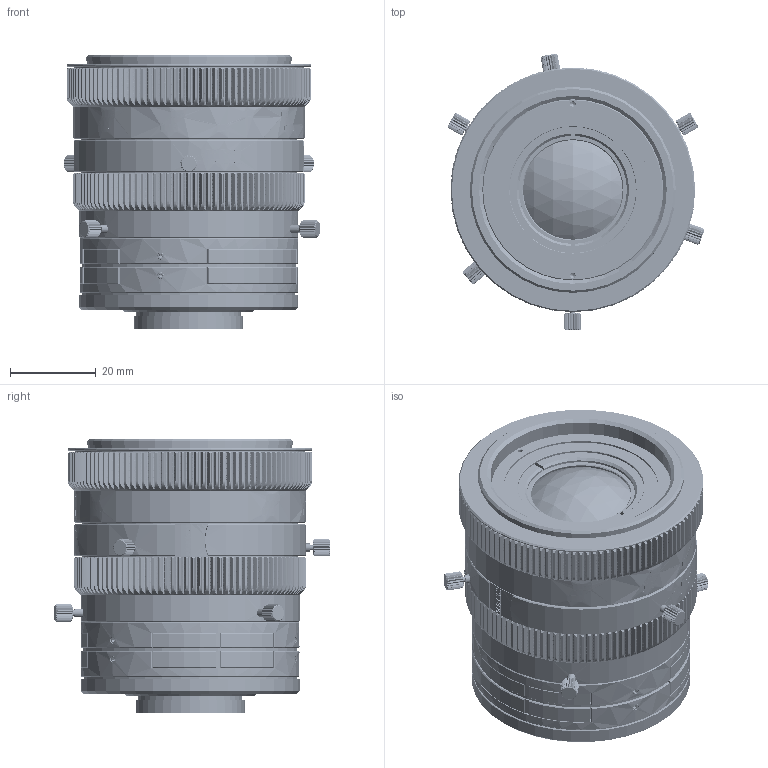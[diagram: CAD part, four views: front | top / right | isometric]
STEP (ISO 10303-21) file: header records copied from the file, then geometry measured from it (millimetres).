
FILE_DESCRIPTION((''),'2;1');
FILE_NAME('ASM0001_ASM','2017-12-15T',('zouwb'),('CARL ZEISS'),'PRO/ENGINEER BY PARAMETRIC TECHNOLOGY CORPORATION, 2015030','PRO/ENGINEER BY PARAMETRIC TECHNOLOGY CORPORATION, 2015030','');
FILE_SCHEMA(('AUTOMOTIVE_DESIGN { 1 0 10303 214 1 1 1 1 }'));
Products named in the file (31): KPM-1011_114BX_G13_CLAMP_ASSEMB; EEP_I___R_J_EEP3_5A; KPM-1011_185AX_APERTURE_LEVER; KPM-1011_181A_FOCUS_GEAR; KPM-1011_184BX_FOCUS_LEVER; ____-______O__4_1_; ____-______O__4_3_; ____1-161288; ____-______O__4_5_; ____-______O__4_2_; ____-______O__4_4_; KPM-1011_190A_CZ_LOGO_ASM; KPM-1011_183A_APERTURE_GEAR; KPM-1011_201A_C_MOUNT; G13; KPM-1011_182A_INDEX_RING_CX; G1; KPM-1011_103_G1_CLAMP__YBX_Z171; AEF_AEF3; KPM-1011_171_BF_BASE__X_G_B_P__; KPM-1011_174_THREAD_RING_A; KPM-1011_178_FOAM_PAD_B; KPM-1011_175_THREAD_RING_B; KPM-1011_172_BF_EXTENSION; KPM-1011_177_FOAM_PAD_A; KPM-1011_176_FOAM_RING; KPM-1011_BFA_ASSY_ASM; KPM-1011_187A_SHADING_RING; KPM-1011_115A_REAR_CENTERING_BA; KPM-1011_186A_FRONT_FRAME; ASM0001_ASM
Assembly tree (43 placements, depth 3):
  ASM0001_ASM
    KPM-1011_114BX_G13_CLAMP_ASSEMB
    EEP_I___R_J_EEP3_5A  x4
    KPM-1011_185AX_APERTURE_LEVER  x3
    KPM-1011_181A_FOCUS_GEAR
    KPM-1011_184BX_FOCUS_LEVER  x3
    KPM-1011_190A_CZ_LOGO_ASM  x2
      ____-______O__4_1_
      ____-______O__4_3_
      ____1-161288
      ____-______O__4_5_
      ____-______O__4_2_
      ____-______O__4_4_
    KPM-1011_183A_APERTURE_GEAR
    KPM-1011_201A_C_MOUNT
    G13
    KPM-1011_182A_INDEX_RING_CX
    G1
    KPM-1011_103_G1_CLAMP__YBX_Z171
    KPM-1011_BFA_ASSY_ASM
      AEF_AEF3  x6
      KPM-1011_171_BF_BASE__X_G_B_P__
      KPM-1011_174_THREAD_RING_A
      KPM-1011_178_FOAM_PAD_B
      KPM-1011_175_THREAD_RING_B
      KPM-1011_172_BF_EXTENSION
      KPM-1011_177_FOAM_PAD_A
      KPM-1011_176_FOAM_RING
    KPM-1011_187A_SHADING_RING
    KPM-1011_115A_REAR_CENTERING_BA
    KPM-1011_186A_FRONT_FRAME
Bounding box: 59.82 x 64.51 x 63.77 mm (x, y, z)
Volume: 42426.2 mm3; surface area: 60260.1 mm2
Topology: 46 solids, 46 shells, 4989 faces, 13563 edges, 8873 vertices
Faces by surface type: bspline 1359, plane 1320, cylinder 1141, cone 655, extrusion 277, torus 229, sphere 8
Entity records: 277519 total; most frequent: CARTESIAN_POINT 169460, ORIENTED_EDGE 23994, DIRECTION 16712, EDGE_CURVE 11997, VERTEX_POINT 7908, AXIS2_PLACEMENT_3D 6046, EDGE_LOOP 4743, B_SPLINE_CURVE_WITH_KNOTS 4683
